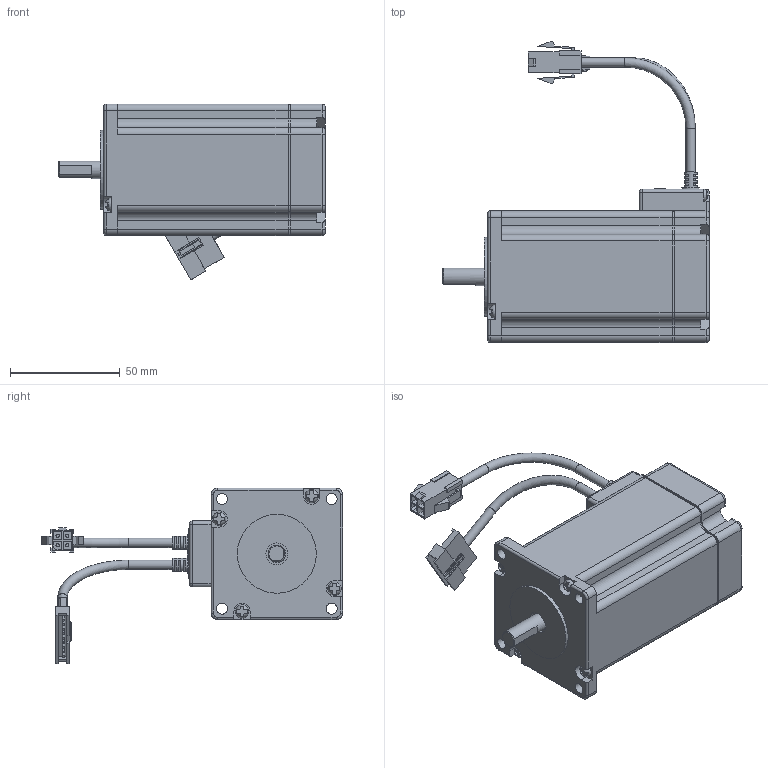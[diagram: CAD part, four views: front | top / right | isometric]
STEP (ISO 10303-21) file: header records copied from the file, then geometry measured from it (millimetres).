
FILE_DESCRIPTION(/* description */ (''),/* implementation_level */ '2;1');
FILE_NAME(/* name */ '\\EMN0D5F01\rp_inventor\RP Mechanical Design\Wiley\Updated Models\eCLM-S603F.stp',/* time_stamp */ '2016-10-27T16:00:28-07:00',/* author */ ('JDB'),/* organization */ ('Parker Hannifin Corp'),/* preprocessor_version */ 'ST-DEVELOPER v15.2',/* originating_system */ 'Autodesk Inventor 2014',/* authorisation */ '');
FILE_SCHEMA (('CONFIG_CONTROL_DESIGN'));
Products named in the file (1): eCLM-S603F_sw
Bounding box: 121.6 x 137.41 x 80.22 mm (x, y, z)
Volume: 298980.9 mm3; surface area: 54526.5 mm2
Topology: 3 solids, 3 shells, 4047 faces, 11774 edges, 7805 vertices
Faces by surface type: plane 3721, cylinder 202, bspline 52, cone 34, torus 26, sphere 12
Full cylindrical faces by diameter (mm): 1 x9, 1.5 x4, 1.6 x4, 2.1 x4, 2.3 x2, 2.4 x7, 4 x5, 4.3 x4, 5 x5, 6 x4, 8 x3, 9.2 x1, 10 x2, 17.5 x1, 36 x1
Entity records: 131324 total; most frequent: CARTESIAN_POINT 24673, ORIENTED_EDGE 23330, DIRECTION 20180, EDGE_CURVE 11663, LINE 10814, VECTOR 10814, VERTEX_POINT 7772, AXIS2_PLACEMENT_3D 4683
